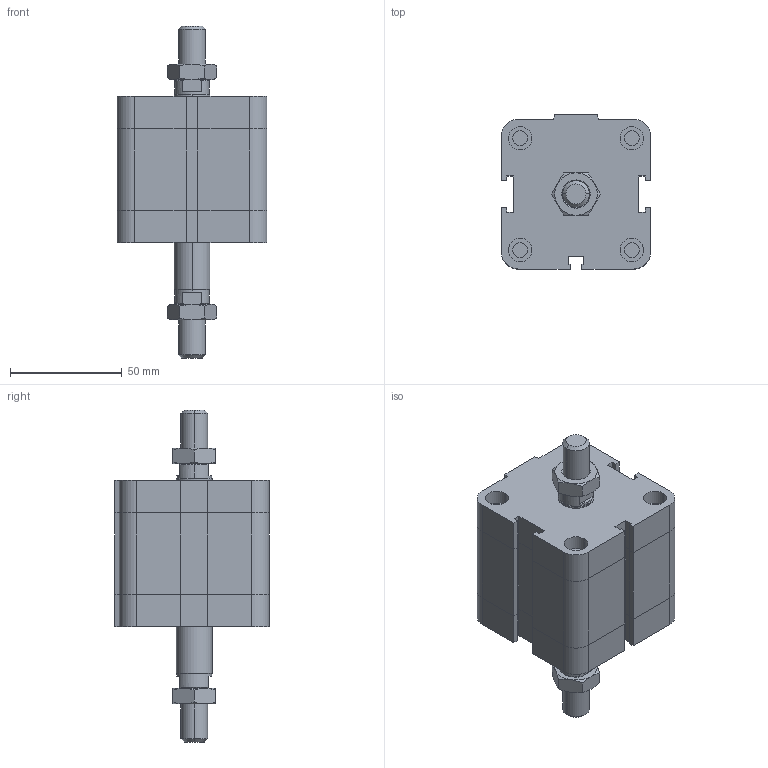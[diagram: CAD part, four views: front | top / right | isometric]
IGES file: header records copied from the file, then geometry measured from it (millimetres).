
Global section: file name: No Iges File Name specified; native system: Autodesk Inventor 2009; preprocessor: AutoDesk Inventor Iges Exporter R2009; author: maffial1; date: 20090420.200933; units: millimetre
Bounding box: 67 x 69 x 148.5 mm (x, y, z)
Volume: 286624.9 mm3; surface area: 45455.2 mm2
Topology: 4 solids, 4 shells, 260 faces, 574 edges, 342 vertices
Faces by surface type: plane 129, bspline 51, cone 38, cylinder 22, revolution 20
